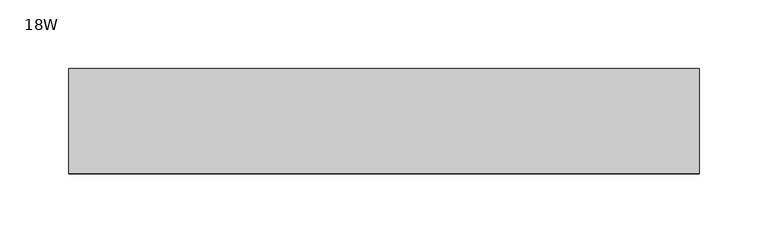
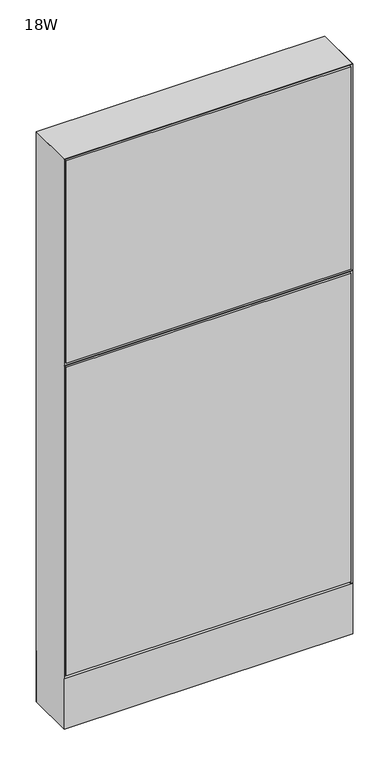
"""IFC4 building model written with IfcOpenShell, lengths in millimetres: furniture geometry, Steelcase - Montage - Frame - 38H - Enhanced Monolithic - Base Cavity : 18W."""

from ifc_helpers import new_model, si_unit, point, frame, frame_2d, origin, origin_with_axes, place, context, project, spatial, polyline, circle_curve, trimmed, segment, composite_curve, outline, extrude, faceted_brep, source, transform, mapped, element, save


def furniture_18w_7ac7aad4(model_context):
    return source(origin(), model_context, "Body", "SolidModel", [
        extrude(outline(polyline([(3.175, 31.7500194), (3.175, 38.1000194), (454.025, 38.1000194), (454.025, 31.7500194), (3.175, 31.7500194)])), frame((0.0, 0.0, 92.075), z_axis=(0.0, 0.0, 1.0), x_axis=(1.0, 0.0, 0.0)), (0.0, 0.0, 1.0), 863.6),
        faceted_brep([(0.0, -38.1026297, 612.775), (457.2, -38.1026297, 612.775), (450.8500047, -31.7526299, 619.1249997), (6.3499917, -31.7526299, 619.1249997), (6.3499917, -31.7526299, 606.4250003), (450.8500047, -31.7526299, 606.4250003)], [[[0, 1, 2, 3]], [[1, 0, 4, 5]], [[3, 2, 5, 4]], [[0, 3, 4]], [[2, 1, 5]]]),
        extrude(outline(polyline([(3.175, -31.7500194), (454.025, -31.7500194), (454.025, -38.1000194), (3.175, -38.1000194), (3.175, -31.7500194)])), frame((0.0, 0.0, 92.075), z_axis=(0.0, 0.0, 1.0), x_axis=(1.0, 0.0, 0.0)), (0.0, 0.0, 1.0), 517.525),
        extrude(outline(polyline([(3.175, -31.7500194), (454.025, -31.7500194), (454.025, -38.1000194), (3.175, -38.1000194), (3.175, -31.7500194)])), frame((0.0, 0.0, 615.95), z_axis=(0.0, 0.0, 1.0), x_axis=(1.0, 0.0, 0.0)), (0.0, 0.0, 1.0), 339.725),
        extrude(outline(polyline([(6.350003, -31.7499985), (450.849997, -31.7499985), (457.2, -38.1000015), (0.0, -38.1000015), (6.350003, -31.7499985)])), frame((0.0, 0.0, 4.064), z_axis=(0.0, 0.0, 1.0), x_axis=(1.0, 0.0, 0.0)), (0.0, 0.0, 1.0), 84.835997),
        extrude(outline(polyline([(6.3500002, 31.7500017), (0.0, 38.1000015), (457.2, 38.1000015), (450.8500002, 31.7500017), (6.3500002, 31.7500017)])), frame((0.0, 0.0, 4.064), z_axis=(0.0, 0.0, 1.0), x_axis=(1.0, 0.0, 0.0)), (0.0, 0.0, 1.0), 84.835997),
        faceted_brep([(457.2, -38.1000015, 958.85), (0.0, -38.1000015, 958.85), (6.3500484, -31.749953, 952.4999516), (450.8499516, -31.749953, 952.4999516), (6.3500484, 31.749953, 952.4999516), (450.8499516, 31.749953, 952.4999516), (0.0, 38.1000015, 958.85), (457.2, 38.1000015, 958.85)], [[[0, 1, 2, 3]], [[3, 2, 4, 5]], [[6, 7, 5, 4]], [[1, 0, 7, 6]], [[2, 1, 6, 4]], [[0, 3, 5, 7]]]),
        extrude(outline(composite_curve([segment(trimmed(circle_curve(frame_2d((44.45, 0.0)), 15.24), [point((29.21, 0.0))], [point((59.69, 0.0))], False, "CARTESIAN"), True, "CONTINUOUS"), segment(trimmed(circle_curve(frame_2d((44.45, 0.0)), 15.24), [point((59.69, 0.0))], [point((29.21, 0.0))], False, "CARTESIAN"), True, "CONTINUOUS")], self_intersect=False)), origin_with_axes(), (0.0, 0.0, 1.0), 4.064),
        extrude(outline(composite_curve([segment(trimmed(circle_curve(frame_2d((412.75, 0.0)), 15.24), [point((397.51, 0.0))], [point((427.99, 0.0))], False, "CARTESIAN"), True, "CONTINUOUS"), segment(trimmed(circle_curve(frame_2d((412.75, 0.0)), 15.24), [point((427.99, 0.0))], [point((397.51, 0.0))], False, "CARTESIAN"), True, "CONTINUOUS")], self_intersect=False)), origin_with_axes(), (0.0, 0.0, 1.0), 4.064),
        faceted_brep([(457.2, -38.1000106, 4.064), (457.2, 38.1000015, 4.064), (457.2, 38.1000015, 958.85), (457.2, -38.1000106, 958.8499637), (0.0, 38.1000015, 4.064), (0.0, -38.1000015, 4.064), (0.0, -38.1000015, 958.85), (0.0, 38.1000015, 958.85), (450.8499879, 31.7500017, 606.425), (6.35, 31.7500017, 606.425), (6.3499998, 31.7500017, 619.125), (450.8499879, 31.7500017, 619.125), (6.35, -31.7499985, 619.125), (450.8499879, -31.7499985, 619.125), (6.350003, -31.7499985, 606.425), (450.8499879, -31.7499985, 606.425), (6.35, 31.7500015, 4.064), (6.35, -31.7500015, 4.064), (450.8499879, 31.7499894, 4.064), (450.8499879, -31.7499985, 4.064), (6.35, 31.7500015, 952.5), (6.35, -31.7500015, 952.5), (450.8499879, -31.7499985, 952.4999516), (450.8499879, 31.7499896, 952.4999516)], [[[0, 1, 2, 3]], [[4, 5, 6, 7]], [[8, 9, 10, 11]], [[11, 10, 12, 13]], [[13, 12, 14, 15]], [[9, 8, 15, 14]], [[16, 17, 5, 4]], [[18, 1, 0, 19]], [[16, 4, 7, 20, 10, 9]], [[5, 17, 14, 12, 21, 6]], [[17, 16, 9, 14]], [[12, 10, 20, 21]], [[18, 19, 15, 8]], [[11, 13, 22, 23]], [[19, 0, 3, 22, 13, 15]], [[1, 18, 8, 11, 23, 2]], [[7, 6, 21, 20]], [[3, 2, 23, 22]]]),
    ])


if __name__ == "__main__":
    model = new_model("IFC4")
    model_context = context("Model", 3, world=origin())
    ifc_project = project(units=[si_unit("LENGTHUNIT", "METRE", prefix="MILLI")], contexts=[model_context])
    site = spatial("IfcSite", under=ifc_project)
    building = spatial("IfcBuilding", under=site)
    placement = place(None, origin())
    furniture_18w_shape = furniture_18w_7ac7aad4(model_context)
    element("IfcFurniture", 1, ObjectType="Steelcase - Montage - Frame - 38H - Enhanced Monolithic - Base Cavity : 18W", at=placement, inside=building, context=model_context, shape_type="MappedRepresentation", body=[
        mapped(furniture_18w_shape, transform((0.0, 0.0, 0.0), x_axis=(1.0, 0.0, 0.0), y_axis=(0.0, 1.0, 0.0), z_axis=(0.0, 0.0, 1.0))),
    ])
    save(model, "model.ifc")
